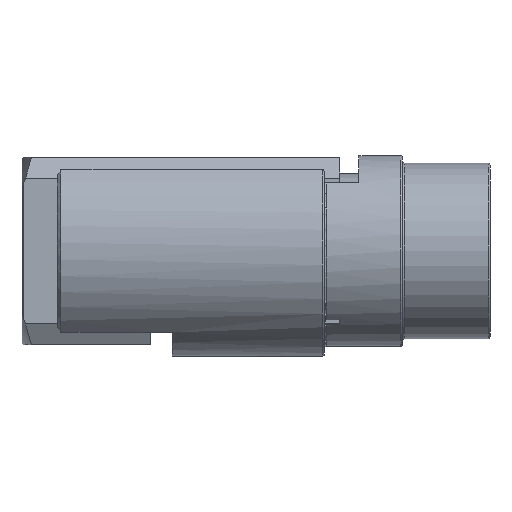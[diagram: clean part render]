
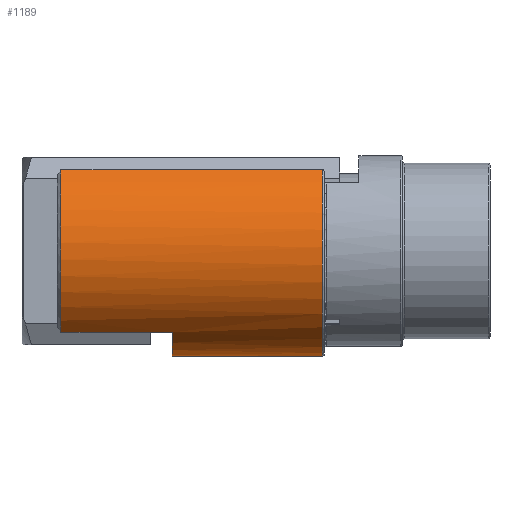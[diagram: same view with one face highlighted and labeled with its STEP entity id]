
A CAD part, left-side view. The second image highlights one B-rep face of the part: STEP entity #1189.
In plain terms, the highlighted cylindrical face has radius 14.287 mm (diameter 28.575 mm), a partial arc.
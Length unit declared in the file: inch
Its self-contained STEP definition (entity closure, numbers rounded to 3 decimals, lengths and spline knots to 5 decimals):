
#143=FACE_OUTER_BOUND('',#211,.T.);
#211=EDGE_LOOP('',(#1029,#1030,#1031,#1032,#1033,#1034,#1035,#1036));
#302=LINE('',#2152,#375);
#304=LINE('',#2164,#377);
#312=LINE('',#2229,#385);
#313=LINE('',#2232,#386);
#375=VECTOR('',#1592,0.3937);
#377=VECTOR('',#1594,0.3937);
#385=VECTOR('',#1630,0.3937);
#386=VECTOR('',#1633,0.3937);
#440=CIRCLE('',#1325,0.5625);
#441=CIRCLE('',#1327,0.5625);
#442=CIRCLE('',#1328,0.5625);
#443=CIRCLE('',#1329,0.5625);
#551=VERTEX_POINT('',#2149);
#552=VERTEX_POINT('',#2151);
#555=VERTEX_POINT('',#2159);
#556=VERTEX_POINT('',#2163);
#567=VERTEX_POINT('',#2212);
#568=VERTEX_POINT('',#2226);
#569=VERTEX_POINT('',#2228);
#570=VERTEX_POINT('',#2230);
#709=EDGE_CURVE('',#552,#551,#302,.T.);
#713=EDGE_CURVE('',#556,#555,#304,.T.);
#730=EDGE_CURVE('',#556,#567,#440,.T.);
#732=EDGE_CURVE('',#552,#555,#441,.T.);
#733=EDGE_CURVE('',#551,#568,#442,.T.);
#734=EDGE_CURVE('',#568,#569,#312,.T.);
#735=EDGE_CURVE('',#570,#569,#443,.T.);
#736=EDGE_CURVE('',#570,#567,#313,.T.);
#1029=ORIENTED_EDGE('',*,*,#713,.T.);
#1030=ORIENTED_EDGE('',*,*,#732,.F.);
#1031=ORIENTED_EDGE('',*,*,#709,.T.);
#1032=ORIENTED_EDGE('',*,*,#733,.T.);
#1033=ORIENTED_EDGE('',*,*,#734,.T.);
#1034=ORIENTED_EDGE('',*,*,#735,.F.);
#1035=ORIENTED_EDGE('',*,*,#736,.T.);
#1036=ORIENTED_EDGE('',*,*,#730,.F.);
#1143=CYLINDRICAL_SURFACE('',#1326,0.5625);
#1189=ADVANCED_FACE('',(#143),#1143,.T.);
#1325=AXIS2_PLACEMENT_3D('',#2213,#1622,#1623);
#1326=AXIS2_PLACEMENT_3D('',#2224,#1624,#1625);
#1327=AXIS2_PLACEMENT_3D('',#2225,#1626,#1627);
#1328=AXIS2_PLACEMENT_3D('',#2227,#1628,#1629);
#1329=AXIS2_PLACEMENT_3D('',#2231,#1631,#1632);
#1592=DIRECTION('',(0.,-1.,0.));
#1594=DIRECTION('',(0.,1.,0.));
#1622=DIRECTION('center_axis',(0.,-1.,0.));
#1623=DIRECTION('ref_axis',(0.,0.,1.));
#1624=DIRECTION('center_axis',(0.,-1.,0.));
#1625=DIRECTION('ref_axis',(0.,0.,-1.));
#1626=DIRECTION('center_axis',(0.,1.,0.));
#1627=DIRECTION('ref_axis',(0.,0.,1.));
#1628=DIRECTION('center_axis',(0.,-1.,0.));
#1629=DIRECTION('ref_axis',(0.,0.,-1.));
#1630=DIRECTION('',(0.,1.,0.));
#1631=DIRECTION('center_axis',(0.,1.,0.));
#1632=DIRECTION('ref_axis',(0.,0.,1.));
#1633=DIRECTION('',(0.,-1.,0.));
#2149=CARTESIAN_POINT('',(-0.3575,1.697,-0.43428));
#2151=CARTESIAN_POINT('',(-0.3575,2.292,-0.43428));
#2152=CARTESIAN_POINT('',(-0.3575,1.5985,-0.43428));
#2159=CARTESIAN_POINT('',(-0.3575,2.292,0.43428));
#2163=CARTESIAN_POINT('',(-0.3575,0.895,0.43428));
#2164=CARTESIAN_POINT('',(-0.3575,1.5985,0.43428));
#2212=CARTESIAN_POINT('',(0.3575,0.895,0.43428));
#2213=CARTESIAN_POINT('Origin',(0.,0.895,0.));
#2224=CARTESIAN_POINT('Origin',(0.,1.5985,0.));
#2225=CARTESIAN_POINT('Origin',(0.,2.292,0.));
#2226=CARTESIAN_POINT('',(0.3575,1.697,-0.43428));
#2227=CARTESIAN_POINT('Origin',(0.,1.697,0.));
#2228=CARTESIAN_POINT('',(0.3575,2.292,-0.43428));
#2229=CARTESIAN_POINT('',(0.3575,1.5985,-0.43428));
#2230=CARTESIAN_POINT('',(0.3575,2.292,0.43428));
#2231=CARTESIAN_POINT('Origin',(0.,2.292,0.));
#2232=CARTESIAN_POINT('',(0.3575,1.5985,0.43428));
